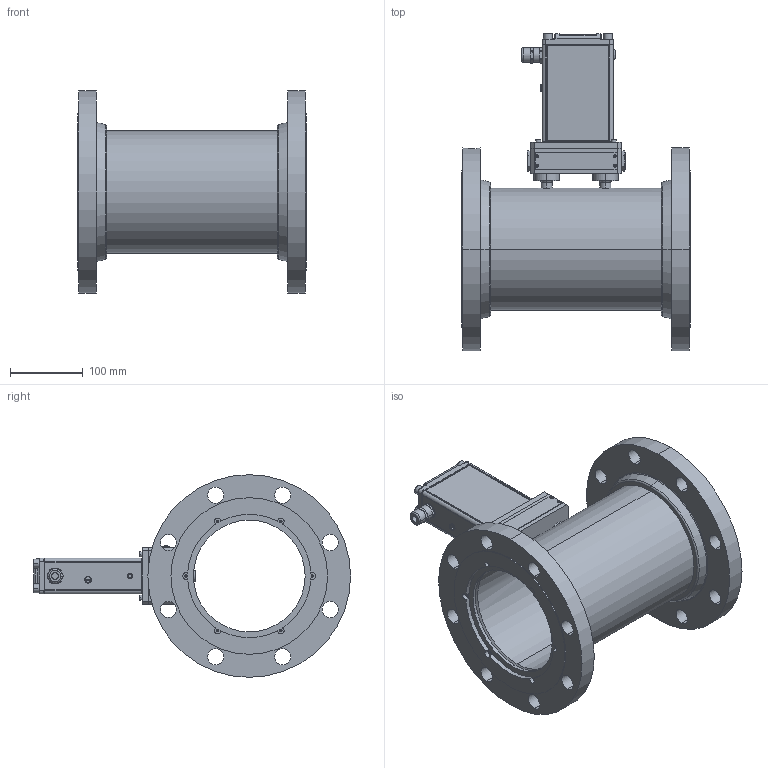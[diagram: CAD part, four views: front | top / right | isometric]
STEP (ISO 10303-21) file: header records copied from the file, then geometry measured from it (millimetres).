
FILE_DESCRIPTION (( 'STEP AP203' ), '1' );
FILE_NAME ('SLAMF64-S-6A-0-G-REVB.STEP', '2025-05-07T13:35:51', ( '' ), ( '' ), 'SwSTEP 2.0', 'SolidWorks 2023', '' );
FILE_SCHEMA (( 'CONFIG_CONTROL_DESIGN' ));
Length unit declared in the file: inch
Products named in the file (1): SLAMF64-S-6A-0-G-REVB
Bounding box: 315 x 437.21 x 279.4 mm (x, y, z)
Volume: 3784065.4 mm3; surface area: 822942.5 mm2
Topology: 61 solids, 61 shells, 1326 faces, 3155 edges, 1979 vertices
Faces by surface type: cylinder 518, plane 471, cone 248, bspline 81, torus 8
Entity records: 40538 total; most frequent: CARTESIAN_POINT 9158, DIRECTION 6853, ORIENTED_EDGE 6210, EDGE_CURVE 3105, AXIS2_PLACEMENT_3D 2662, VERTEX_POINT 1979, EDGE_LOOP 1590, LINE 1529
